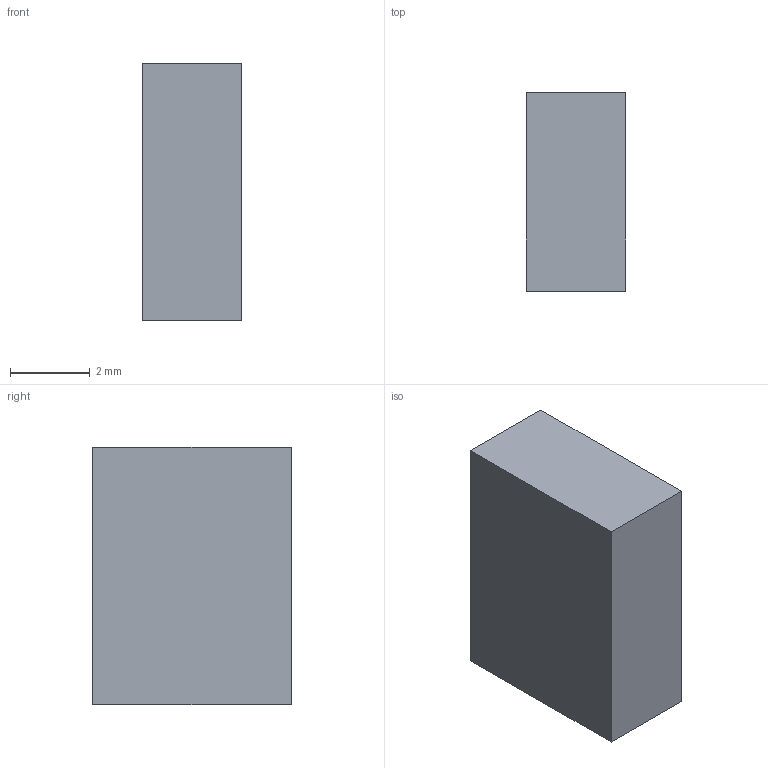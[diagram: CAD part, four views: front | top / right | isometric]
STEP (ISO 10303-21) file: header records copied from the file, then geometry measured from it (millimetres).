
FILE_DESCRIPTION(('Open CASCADE Model'),'2;1');
FILE_NAME('Open CASCADE Shape Model','2026-10-09T23:01:25',('Author'),( 'Open CASCADE'),'Open CASCADE STEP processor 7.9','Open CASCADE 7.9' ,'Unknown');
FILE_SCHEMA(('AUTOMOTIVE_DESIGN { 1 0 10303 214 1 1 1 1 }'));
Length unit declared in the file: millimetre
Products named in the file (2): Connfly_DS1027_2BBN1; housing
Assembly tree (1 placements, depth 2):
  Connfly_DS1027_2BBN1
    housing
Bounding box: 2.5 x 5 x 6.47 mm (x, y, z)
Volume: 71.8 mm3; surface area: 162.4 mm2
Topology: 1 solids, 1 shells, 16 faces, 36 edges, 24 vertices
Faces by surface type: plane 16
Entity records: 929 total; most frequent: CARTESIAN_POINT 166, DIRECTION 128, LINE 92, VECTOR 92, ORIENTED_EDGE 72, PCURVE 72, DEFINITIONAL_REPRESENTATION 72, EDGE_CURVE 36
